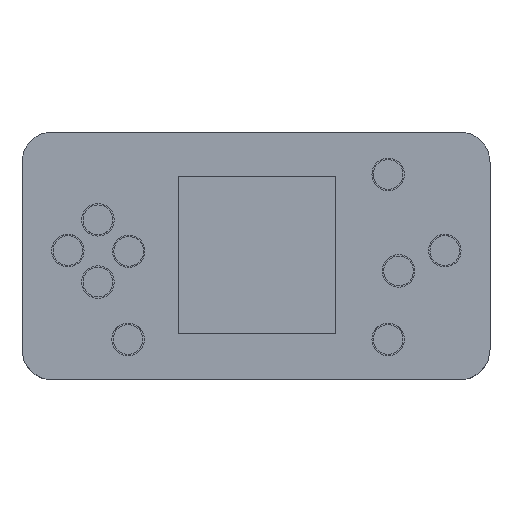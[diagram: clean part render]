
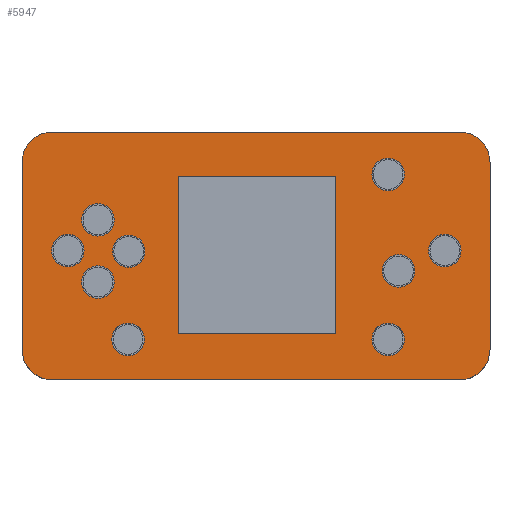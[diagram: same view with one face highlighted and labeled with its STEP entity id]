
A CAD part, top view. The second image highlights one B-rep face of the part: STEP entity #5947.
In plain terms, the highlighted planar face has unit normal (0, 0, 1).
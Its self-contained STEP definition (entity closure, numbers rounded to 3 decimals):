
#5189 = VERTEX_POINT('',#5190);
#5190 = CARTESIAN_POINT('',(-20.296,-15.174,24.5));
#5196 = EDGE_CURVE('',#5189,#5189,#5197,.T.);
#5197 = CIRCLE('',#5198,2.95);
#5198 = AXIS2_PLACEMENT_3D('',#5199,#5200,#5201);
#5199 = CARTESIAN_POINT('',(-23.246,-15.174,24.5));
#5200 = DIRECTION('',(0.,0.,-1.));
#5201 = DIRECTION('',(1.,0.,0.));
#5214 = VERTEX_POINT('',#5215);
#5215 = CARTESIAN_POINT('',(-25.757,-4.76,24.5));
#5221 = EDGE_CURVE('',#5214,#5214,#5222,.T.);
#5222 = CIRCLE('',#5223,2.95);
#5223 = AXIS2_PLACEMENT_3D('',#5224,#5225,#5226);
#5224 = CARTESIAN_POINT('',(-28.707,-4.76,24.5));
#5225 = DIRECTION('',(0.,0.,-1.));
#5226 = DIRECTION('',(1.,0.,0.));
#5239 = VERTEX_POINT('',#5240);
#5240 = CARTESIAN_POINT('',(26.948,-15.174,24.5));
#5246 = EDGE_CURVE('',#5239,#5239,#5247,.T.);
#5247 = CIRCLE('',#5248,2.95);
#5248 = AXIS2_PLACEMENT_3D('',#5249,#5250,#5251);
#5249 = CARTESIAN_POINT('',(23.998,-15.174,24.5));
#5250 = DIRECTION('',(0.,0.,-1.));
#5251 = DIRECTION('',(1.,0.,0.));
#5264 = VERTEX_POINT('',#5265);
#5265 = CARTESIAN_POINT('',(28.853,-2.728,24.5));
#5271 = EDGE_CURVE('',#5264,#5264,#5272,.T.);
#5272 = CIRCLE('',#5273,2.95);
#5273 = AXIS2_PLACEMENT_3D('',#5274,#5275,#5276);
#5274 = CARTESIAN_POINT('',(25.903,-2.728,24.5));
#5275 = DIRECTION('',(0.,0.,-1.));
#5276 = DIRECTION('',(1.,0.,0.));
#5289 = VERTEX_POINT('',#5290);
#5290 = CARTESIAN_POINT('',(-31.218,0.955,24.5));
#5296 = EDGE_CURVE('',#5289,#5289,#5297,.T.);
#5297 = CIRCLE('',#5298,2.95);
#5298 = AXIS2_PLACEMENT_3D('',#5299,#5300,#5301);
#5299 = CARTESIAN_POINT('',(-34.168,0.955,24.5));
#5300 = DIRECTION('',(0.,0.,-1.));
#5301 = DIRECTION('',(1.,0.,0.));
#5314 = VERTEX_POINT('',#5315);
#5315 = CARTESIAN_POINT('',(-20.169,0.828,24.5));
#5321 = EDGE_CURVE('',#5314,#5314,#5322,.T.);
#5322 = CIRCLE('',#5323,2.95);
#5323 = AXIS2_PLACEMENT_3D('',#5324,#5325,#5326);
#5324 = CARTESIAN_POINT('',(-23.119,0.828,24.5));
#5325 = DIRECTION('',(0.,0.,-1.));
#5326 = DIRECTION('',(1.,0.,0.));
#5339 = VERTEX_POINT('',#5340);
#5340 = CARTESIAN_POINT('',(-25.757,6.543,24.5));
#5346 = EDGE_CURVE('',#5339,#5339,#5347,.T.);
#5347 = CIRCLE('',#5348,2.95);
#5348 = AXIS2_PLACEMENT_3D('',#5349,#5350,#5351);
#5349 = CARTESIAN_POINT('',(-28.707,6.543,24.5));
#5350 = DIRECTION('',(0.,0.,-1.));
#5351 = DIRECTION('',(1.,0.,0.));
#5460 = VERTEX_POINT('',#5461);
#5461 = CARTESIAN_POINT('',(37.235,0.955,24.5));
#5467 = EDGE_CURVE('',#5460,#5460,#5468,.T.);
#5468 = CIRCLE('',#5469,2.95);
#5469 = AXIS2_PLACEMENT_3D('',#5470,#5471,#5472);
#5470 = CARTESIAN_POINT('',(34.285,0.955,24.5));
#5471 = DIRECTION('',(0.,0.,-1.));
#5472 = DIRECTION('',(1.,0.,0.));
#5485 = VERTEX_POINT('',#5486);
#5486 = CARTESIAN_POINT('',(26.948,14.798,24.5));
#5492 = EDGE_CURVE('',#5485,#5485,#5493,.T.);
#5493 = CIRCLE('',#5494,2.95);
#5494 = AXIS2_PLACEMENT_3D('',#5495,#5496,#5497);
#5495 = CARTESIAN_POINT('',(23.998,14.798,24.5));
#5496 = DIRECTION('',(0.,0.,-1.));
#5497 = DIRECTION('',(1.,0.,0.));
#5947 = ADVANCED_FACE('',(#5948,#6018,#6021,#6024,#6027,#6030,#6033,
    #6036,#6039,#6073,#6076),#6079,.T.);
#5948 = FACE_BOUND('',#5949,.T.);
#5949 = EDGE_LOOP('',(#5950,#5961,#5969,#5978,#5986,#5995,#6003,#6012));
#5950 = ORIENTED_EDGE('',*,*,#5951,.T.);
#5951 = EDGE_CURVE('',#5952,#5954,#5956,.T.);
#5952 = VERTEX_POINT('',#5953);
#5953 = CARTESIAN_POINT('',(-42.5,-17.,24.5));
#5954 = VERTEX_POINT('',#5955);
#5955 = CARTESIAN_POINT('',(-37.,-22.5,24.5));
#5956 = CIRCLE('',#5957,5.5);
#5957 = AXIS2_PLACEMENT_3D('',#5958,#5959,#5960);
#5958 = CARTESIAN_POINT('',(-37.,-17.,24.5));
#5959 = DIRECTION('',(0.,0.,1.));
#5960 = DIRECTION('',(1.,0.,0.));
#5961 = ORIENTED_EDGE('',*,*,#5962,.T.);
#5962 = EDGE_CURVE('',#5954,#5963,#5965,.T.);
#5963 = VERTEX_POINT('',#5964);
#5964 = CARTESIAN_POINT('',(37.,-22.5,24.5));
#5965 = LINE('',#5966,#5967);
#5966 = CARTESIAN_POINT('',(-37.,-22.5,24.5));
#5967 = VECTOR('',#5968,1.);
#5968 = DIRECTION('',(1.,0.,0.));
#5969 = ORIENTED_EDGE('',*,*,#5970,.T.);
#5970 = EDGE_CURVE('',#5963,#5971,#5973,.T.);
#5971 = VERTEX_POINT('',#5972);
#5972 = CARTESIAN_POINT('',(42.5,-17.,24.5));
#5973 = CIRCLE('',#5974,5.5);
#5974 = AXIS2_PLACEMENT_3D('',#5975,#5976,#5977);
#5975 = CARTESIAN_POINT('',(37.,-17.,24.5));
#5976 = DIRECTION('',(0.,0.,1.));
#5977 = DIRECTION('',(1.,0.,0.));
#5978 = ORIENTED_EDGE('',*,*,#5979,.T.);
#5979 = EDGE_CURVE('',#5971,#5980,#5982,.T.);
#5980 = VERTEX_POINT('',#5981);
#5981 = CARTESIAN_POINT('',(42.5,17.,24.5));
#5982 = LINE('',#5983,#5984);
#5983 = CARTESIAN_POINT('',(42.5,-17.,24.5));
#5984 = VECTOR('',#5985,1.);
#5985 = DIRECTION('',(0.,1.,0.));
#5986 = ORIENTED_EDGE('',*,*,#5987,.T.);
#5987 = EDGE_CURVE('',#5980,#5988,#5990,.T.);
#5988 = VERTEX_POINT('',#5989);
#5989 = CARTESIAN_POINT('',(37.,22.5,24.5));
#5990 = CIRCLE('',#5991,5.5);
#5991 = AXIS2_PLACEMENT_3D('',#5992,#5993,#5994);
#5992 = CARTESIAN_POINT('',(37.,17.,24.5));
#5993 = DIRECTION('',(0.,0.,1.));
#5994 = DIRECTION('',(1.,0.,0.));
#5995 = ORIENTED_EDGE('',*,*,#5996,.F.);
#5996 = EDGE_CURVE('',#5997,#5988,#5999,.T.);
#5997 = VERTEX_POINT('',#5998);
#5998 = CARTESIAN_POINT('',(-37.,22.5,24.5));
#5999 = LINE('',#6000,#6001);
#6000 = CARTESIAN_POINT('',(-37.,22.5,24.5));
#6001 = VECTOR('',#6002,1.);
#6002 = DIRECTION('',(1.,0.,0.));
#6003 = ORIENTED_EDGE('',*,*,#6004,.T.);
#6004 = EDGE_CURVE('',#5997,#6005,#6007,.T.);
#6005 = VERTEX_POINT('',#6006);
#6006 = CARTESIAN_POINT('',(-42.5,17.,24.5));
#6007 = CIRCLE('',#6008,5.5);
#6008 = AXIS2_PLACEMENT_3D('',#6009,#6010,#6011);
#6009 = CARTESIAN_POINT('',(-37.,17.,24.5));
#6010 = DIRECTION('',(0.,0.,1.));
#6011 = DIRECTION('',(1.,0.,0.));
#6012 = ORIENTED_EDGE('',*,*,#6013,.F.);
#6013 = EDGE_CURVE('',#5952,#6005,#6014,.T.);
#6014 = LINE('',#6015,#6016);
#6015 = CARTESIAN_POINT('',(-42.5,-17.,24.5));
#6016 = VECTOR('',#6017,1.);
#6017 = DIRECTION('',(0.,1.,0.));
#6018 = FACE_BOUND('',#6019,.T.);
#6019 = EDGE_LOOP('',(#6020));
#6020 = ORIENTED_EDGE('',*,*,#5196,.T.);
#6021 = FACE_BOUND('',#6022,.T.);
#6022 = EDGE_LOOP('',(#6023));
#6023 = ORIENTED_EDGE('',*,*,#5221,.T.);
#6024 = FACE_BOUND('',#6025,.T.);
#6025 = EDGE_LOOP('',(#6026));
#6026 = ORIENTED_EDGE('',*,*,#5246,.T.);
#6027 = FACE_BOUND('',#6028,.T.);
#6028 = EDGE_LOOP('',(#6029));
#6029 = ORIENTED_EDGE('',*,*,#5271,.T.);
#6030 = FACE_BOUND('',#6031,.T.);
#6031 = EDGE_LOOP('',(#6032));
#6032 = ORIENTED_EDGE('',*,*,#5296,.T.);
#6033 = FACE_BOUND('',#6034,.T.);
#6034 = EDGE_LOOP('',(#6035));
#6035 = ORIENTED_EDGE('',*,*,#5321,.T.);
#6036 = FACE_BOUND('',#6037,.T.);
#6037 = EDGE_LOOP('',(#6038));
#6038 = ORIENTED_EDGE('',*,*,#5346,.T.);
#6039 = FACE_BOUND('',#6040,.T.);
#6040 = EDGE_LOOP('',(#6041,#6051,#6059,#6067));
#6041 = ORIENTED_EDGE('',*,*,#6042,.T.);
#6042 = EDGE_CURVE('',#6043,#6045,#6047,.T.);
#6043 = VERTEX_POINT('',#6044);
#6044 = CARTESIAN_POINT('',(14.37,-14.137,24.5));
#6045 = VERTEX_POINT('',#6046);
#6046 = CARTESIAN_POINT('',(-14.15,-14.137,24.5));
#6047 = LINE('',#6048,#6049);
#6048 = CARTESIAN_POINT('',(-7.075,-14.137,24.5));
#6049 = VECTOR('',#6050,1.);
#6050 = DIRECTION('',(-1.,0.,0.));
#6051 = ORIENTED_EDGE('',*,*,#6052,.T.);
#6052 = EDGE_CURVE('',#6045,#6053,#6055,.T.);
#6053 = VERTEX_POINT('',#6054);
#6054 = CARTESIAN_POINT('',(-14.15,14.383,24.5));
#6055 = LINE('',#6056,#6057);
#6056 = CARTESIAN_POINT('',(-14.15,-7.069,24.5));
#6057 = VECTOR('',#6058,1.);
#6058 = DIRECTION('',(0.,1.,0.));
#6059 = ORIENTED_EDGE('',*,*,#6060,.F.);
#6060 = EDGE_CURVE('',#6061,#6053,#6063,.T.);
#6061 = VERTEX_POINT('',#6062);
#6062 = CARTESIAN_POINT('',(14.37,14.383,24.5));
#6063 = LINE('',#6064,#6065);
#6064 = CARTESIAN_POINT('',(-7.075,14.383,24.5));
#6065 = VECTOR('',#6066,1.);
#6066 = DIRECTION('',(-1.,0.,0.));
#6067 = ORIENTED_EDGE('',*,*,#6068,.F.);
#6068 = EDGE_CURVE('',#6043,#6061,#6069,.T.);
#6069 = LINE('',#6070,#6071);
#6070 = CARTESIAN_POINT('',(14.37,-7.069,24.5));
#6071 = VECTOR('',#6072,1.);
#6072 = DIRECTION('',(0.,1.,0.));
#6073 = FACE_BOUND('',#6074,.T.);
#6074 = EDGE_LOOP('',(#6075));
#6075 = ORIENTED_EDGE('',*,*,#5467,.T.);
#6076 = FACE_BOUND('',#6077,.T.);
#6077 = EDGE_LOOP('',(#6078));
#6078 = ORIENTED_EDGE('',*,*,#5492,.T.);
#6079 = PLANE('',#6080);
#6080 = AXIS2_PLACEMENT_3D('',#6081,#6082,#6083);
#6081 = CARTESIAN_POINT('',(0.,0.,24.5)
  );
#6082 = DIRECTION('',(0.,0.,1.));
#6083 = DIRECTION('',(1.,0.,0.));
